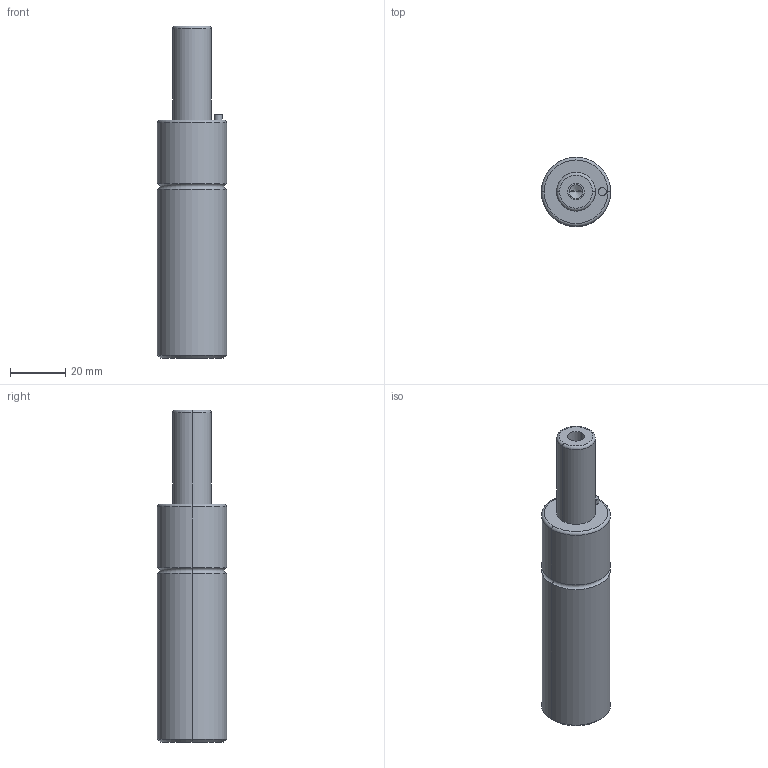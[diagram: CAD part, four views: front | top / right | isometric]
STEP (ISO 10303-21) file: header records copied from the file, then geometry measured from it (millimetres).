
FILE_DESCRIPTION(/* description */ (''),/* implementation_level */ '2;1');
FILE_NAME(/* name */ '3d_gsm25-32_03893_r00.stp',/* time_stamp */ '2011-01-10T14:15:17+09:00',/* author */ ('MISUMI'),/* organization */ (''),/* preprocessor_version */ 'ST-DEVELOPER v11',/* originating_system */ 'UGS - NX 5.0',/* authorisation */ '');
FILE_SCHEMA (('CONFIG_CONTROL_DESIGN'));
Length unit declared in the file: millimetre
Products named in the file (1): 3d_gsm25-32_03893_r00
Bounding box: 25 x 25 x 120 mm (x, y, z)
Volume: 46737.6 mm3; surface area: 9591.3 mm2
Topology: 1 solids, 1 shells, 34 faces, 70 edges, 40 vertices
Faces by surface type: cylinder 16, cone 6, plane 6, torus 6
Entity records: 964 total; most frequent: DIRECTION 180, CARTESIAN_POINT 141, ORIENTED_EDGE 132, AXIS2_PLACEMENT_3D 79, EDGE_CURVE 66, CIRCLE 44, EDGE_LOOP 40, VERTEX_POINT 40
